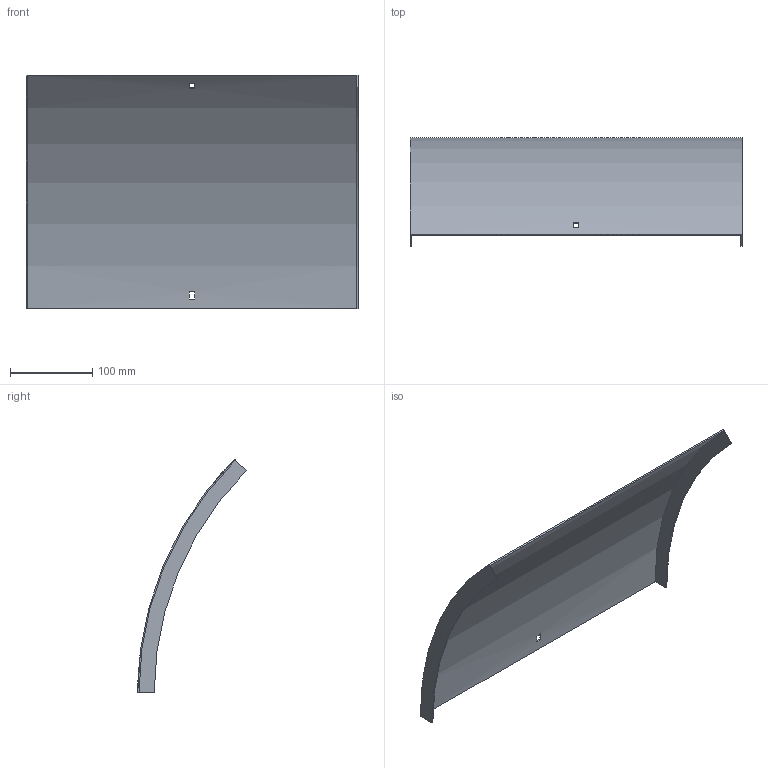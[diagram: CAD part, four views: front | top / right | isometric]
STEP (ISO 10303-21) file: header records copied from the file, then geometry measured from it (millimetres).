
FILE_DESCRIPTION (( 'STEP AP214' ), '1' );
FILE_NAME ('B2_34N3D400.step', '2025-02-21T10:36:31', ( '' ), ( '' ), 'SwSTEP 2.0', 'SolidWorks 2023', '' );
FILE_SCHEMA (( 'AUTOMOTIVE_DESIGN' ));
Length unit declared in the file: millimetre
Products named in the file (1): B2_34N3D400
Bounding box: 403 x 131.74 x 283.9 mm (x, y, z)
Volume: 207122.3 mm3; surface area: 278476.9 mm2
Topology: 1 solids, 1 shells, 18 faces, 48 edges, 32 vertices
Faces by surface type: plane 14, cylinder 4
Entity records: 599 total; most frequent: DIRECTION 102, CARTESIAN_POINT 99, ORIENTED_EDGE 96, EDGE_CURVE 48, AXIS2_PLACEMENT_3D 35, VECTOR 32, VERTEX_POINT 32, LINE 32
